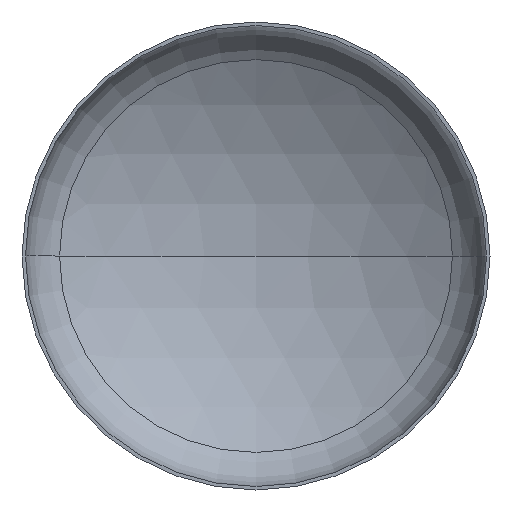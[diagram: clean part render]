
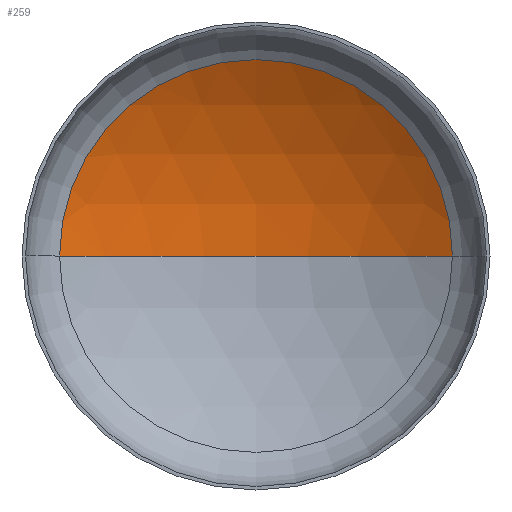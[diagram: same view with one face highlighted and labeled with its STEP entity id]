
A CAD part, front view. The second image highlights one B-rep face of the part: STEP entity #259.
In plain terms, the highlighted spherical face has radius 2560 mm.
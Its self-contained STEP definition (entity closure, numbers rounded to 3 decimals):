
#5 = DIRECTION ( 'NONE',  ( 1., 0., 0. ) ) ;
#7 = AXIS2_PLACEMENT_3D ( 'NONE', #126, #200, #51 ) ;
#14 = DIRECTION ( 'NONE',  ( 0., 0., 1. ) ) ;
#24 = AXIS2_PLACEMENT_3D ( 'NONE', #134, #14, #5 ) ;
#25 = AXIS2_PLACEMENT_3D ( 'NONE', #108, #307, #140 ) ;
#26 = AXIS2_PLACEMENT_3D ( 'NONE', #161, #163, #145 ) ;
#37 = CARTESIAN_POINT ( 'NONE',  ( 0., 872.756, 0. ) ) ;
#51 = DIRECTION ( 'NONE',  ( -1., 0., 0. ) ) ;
#62 = VERTEX_POINT ( 'NONE', #208 ) ;
#70 = EDGE_CURVE ( 'NONE', #305, #62, #95, .T. ) ;
#71 = ORIENTED_EDGE ( 'NONE', *, *, #75, .F. ) ;
#73 = EDGE_CURVE ( 'NONE', #357, #305, #392, .T. ) ;
#75 = EDGE_CURVE ( 'NONE', #357, #62, #312, .T. ) ;
#95 = CIRCLE ( 'NONE', #26, 1343.072 ) ;
#108 = CARTESIAN_POINT ( 'NONE',  ( 0., -1687.244, 0. ) ) ;
#126 = CARTESIAN_POINT ( 'NONE',  ( 0., -1687.244, 0. ) ) ;
#134 = CARTESIAN_POINT ( 'NONE',  ( 0., -1687.244, 0. ) ) ;
#140 = DIRECTION ( 'NONE',  ( -1., 0., 0. ) ) ;
#143 = EDGE_LOOP ( 'NONE', ( #71, #252, #255 ) ) ;
#145 = DIRECTION ( 'NONE',  ( 1., 0., 0. ) ) ;
#161 = CARTESIAN_POINT ( 'NONE',  ( 0., 492.15, 0. ) ) ;
#163 = DIRECTION ( 'NONE',  ( 0., -1., 0. ) ) ;
#200 = DIRECTION ( 'NONE',  ( 0., 0., -1. ) ) ;
#208 = CARTESIAN_POINT ( 'NONE',  ( -1343.072, 492.15, 0. ) ) ;
#219 = FACE_OUTER_BOUND ( 'NONE', #143, .T. ) ;
#252 = ORIENTED_EDGE ( 'NONE', *, *, #73, .T. ) ;
#255 = ORIENTED_EDGE ( 'NONE', *, *, #70, .T. ) ;
#259 = ADVANCED_FACE ( 'NONE', ( #219 ), #286, .F. ) ;
#286 = SPHERICAL_SURFACE ( 'NONE', #7, 2560. ) ;
#305 = VERTEX_POINT ( 'NONE', #390 ) ;
#307 = DIRECTION ( 'NONE',  ( 0., 0., -1. ) ) ;
#312 = CIRCLE ( 'NONE', #24, 2560. ) ;
#357 = VERTEX_POINT ( 'NONE', #37 ) ;
#390 = CARTESIAN_POINT ( 'NONE',  ( 1343.072, 492.15, 0. ) ) ;
#392 = CIRCLE ( 'NONE', #25, 2560. ) ;
